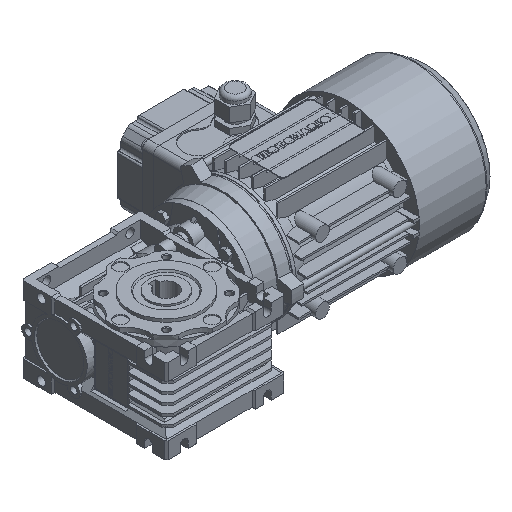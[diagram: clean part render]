
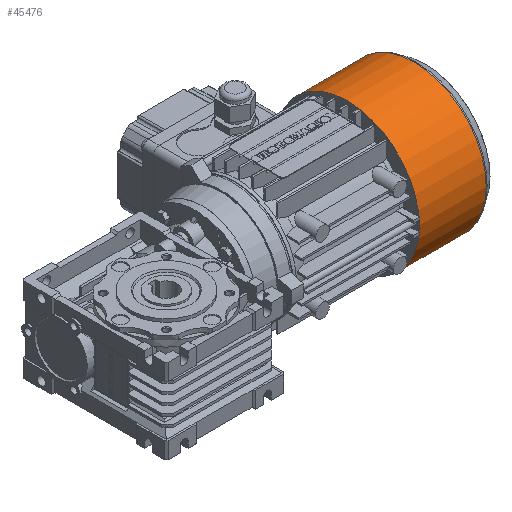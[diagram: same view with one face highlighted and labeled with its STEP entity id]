
A CAD part, isometric view. The second image highlights one B-rep face of the part: STEP entity #45476.
In plain terms, the highlighted cylindrical face has radius 60.45 mm (diameter 120.9 mm), a full revolution.
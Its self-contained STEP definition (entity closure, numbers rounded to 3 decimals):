
#17085=ORIENTED_EDGE('',*,*,#27435,.F.);
#17086=ORIENTED_EDGE('',*,*,#27434,.T.);
#27434=EDGE_CURVE('',#33177,#33177,#36922,.T.);
#27435=EDGE_CURVE('',#33178,#33178,#36923,.T.);
#33177=VERTEX_POINT('',#78379);
#33178=VERTEX_POINT('',#78382);
#36922=CIRCLE('',#55483,60.45);
#36923=CIRCLE('',#55485,60.45);
#39077=EDGE_LOOP('',(#17085));
#39078=EDGE_LOOP('',(#17086));
#41848=FACE_BOUND('',#39077,.T.);
#41849=FACE_BOUND('',#39078,.T.);
#44001=CYLINDRICAL_SURFACE('',#55484,60.45);
#45476=ADVANCED_FACE('',(#41848,#41849),#44001,.T.);
#55483=AXIS2_PLACEMENT_3D('',#78378,#64862,#64863);
#55484=AXIS2_PLACEMENT_3D('',#78380,#64864,#64865);
#55485=AXIS2_PLACEMENT_3D('',#78381,#64866,#64867);
#64862=DIRECTION('',(1.,0.,0.));
#64863=DIRECTION('',(0.,0.,-1.));
#64864=DIRECTION('',(1.,0.,0.));
#64865=DIRECTION('',(0.,0.,-1.));
#64866=DIRECTION('',(1.,0.,0.));
#64867=DIRECTION('',(0.,0.,-1.));
#78378=CARTESIAN_POINT('',(0.,0.,0.));
#78379=CARTESIAN_POINT('',(0.,0.,-60.45));
#78380=CARTESIAN_POINT('',(66.,0.,0.));
#78381=CARTESIAN_POINT('',(56.158,0.,0.));
#78382=CARTESIAN_POINT('',(56.158,0.,-60.45));
